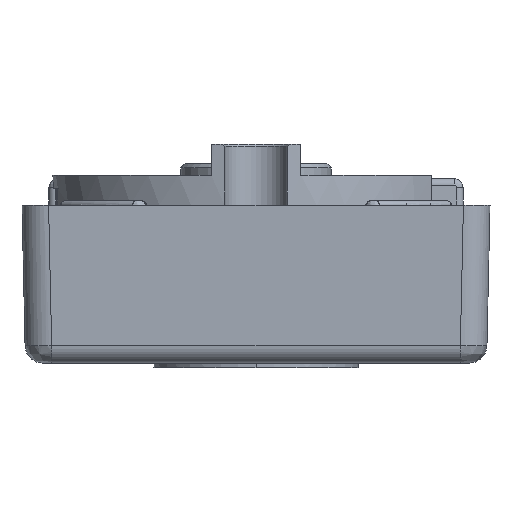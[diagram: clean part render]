
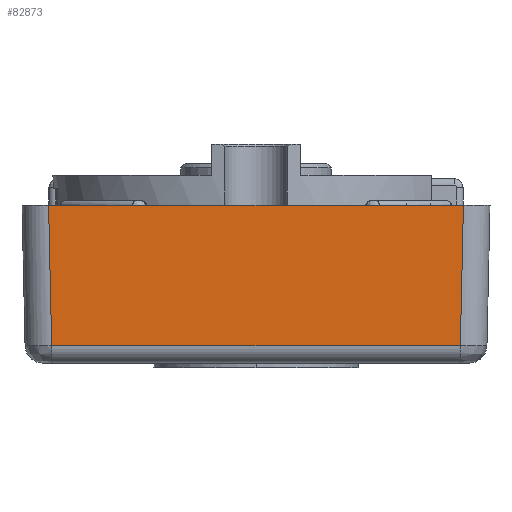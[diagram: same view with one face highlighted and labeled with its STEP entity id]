
A CAD part, front view. The second image highlights one B-rep face of the part: STEP entity #82873.
In plain terms, the highlighted planar face has unit normal (0, -1, -0.022).
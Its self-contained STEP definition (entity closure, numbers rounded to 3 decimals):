
#8173=DIRECTION('',(-1.,0.,0.));
#8174=VECTOR('',#8173,46.087);
#8175=CARTESIAN_POINT('',(23.043,-48.543,1.956));
#8176=LINE('',#8175,#8174);
#28527=CARTESIAN_POINT('',(23.389,-48.888,
17.8));
#28529=DIRECTION('',(0.022,-0.022,1.));
#28530=VECTOR('',#28529,15.851);
#28531=CARTESIAN_POINT('',(23.043,-48.543,
1.956));
#28532=LINE('',#28531,#28530);
#28533=DIRECTION('',(0.022,0.022,-1.));
#28534=VECTOR('',#28533,15.851);
#28535=CARTESIAN_POINT('',(-23.389,-48.888,
17.8));
#28536=LINE('',#28535,#28534);
#28537=DIRECTION('',(-1.,0.,0.));
#28538=VECTOR('',#28537,46.778);
#28539=CARTESIAN_POINT('',(23.389,-48.888,
17.8));
#28540=LINE('',#28539,#28538);
#34636=CARTESIAN_POINT('',(23.043,-48.543,
1.956));
#34637=VERTEX_POINT('',#34636);
#34638=CARTESIAN_POINT('',(-23.043,-48.543,
1.956));
#34639=VERTEX_POINT('',#34638);
#34661=VERTEX_POINT('',#28527);
#34662=CARTESIAN_POINT('',(-23.389,-48.888,
17.8));
#34663=VERTEX_POINT('',#34662);
#82861=CARTESIAN_POINT('',(-26.,-48.5,0.));
#82862=DIRECTION('',(0.,-1.,-0.022));
#82863=DIRECTION('',(1.,0.,0.));
#82864=AXIS2_PLACEMENT_3D('',#82861,#82862,#82863);
#82865=PLANE('',#82864);
#82866=ORIENTED_EDGE('',*,*,#82855,.F.);
#82867=ORIENTED_EDGE('',*,*,#52642,.T.);
#82869=ORIENTED_EDGE('',*,*,#82868,.F.);
#82870=ORIENTED_EDGE('',*,*,#52765,.F.);
#82871=EDGE_LOOP('',(#82866,#82867,#82869,#82870));
#82872=FACE_OUTER_BOUND('',#82871,.F.);
#82873=ADVANCED_FACE('',(#82872),#82865,.T.);
#52642=EDGE_CURVE('',#34637,#34639,#8176,.T.);
#52765=EDGE_CURVE('',#34661,#34663,#28540,.T.);
#82855=EDGE_CURVE('',#34637,#34661,#28532,.T.);
#82868=EDGE_CURVE('',#34663,#34639,#28536,.T.);
